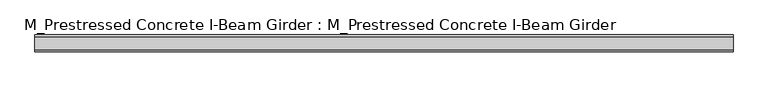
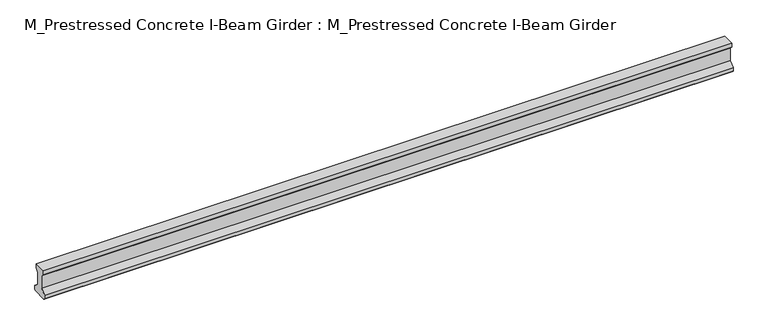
"""IFC4 building model written with IfcOpenShell, lengths in millimetres: beam geometry, M_Prestressed Concrete I-Beam Girder : M_Prestressed Concrete I-Beam Girder."""

from ifc_helpers import new_model, si_unit, frame, origin, place, context, project, spatial, polyline, outline, extrude, source, transform, mapped, element, save


def m_prestressed_concrete_i_beam_girder_m_prestressed_concrete_a927a00e(model_context):
    return source(origin(), model_context, "Body", "SweptSolid", [
        extrude(outline(polyline([(-150.0, -100.0), (-150.0, 0.0), (150.0, 0.0), (150.0, -100.0), (75.0, -170.0), (75.0, -480.0), (200.0, -580.0), (200.0, -675.0), (175.0, -700.0), (-175.0, -700.0), (-200.0, -675.0), (-200.0, -580.0), (-75.0, -480.0), (-75.0, -170.0), (-150.0, -100.0)])), frame((-8202.0000364, 0.0, 0.0), z_axis=(1.0, 0.0, 0.0), x_axis=(0.0, 1.0, 0.0)), (0.0, 0.0, 1.0), 16404.0000728),
    ])


if __name__ == "__main__":
    model = new_model("IFC4")
    model_context = context("Model", 3, world=origin())
    ifc_project = project(units=[si_unit("LENGTHUNIT", "METRE", prefix="MILLI")], contexts=[model_context])
    site = spatial("IfcSite", under=ifc_project)
    building = spatial("IfcBuilding", under=site)
    placement = place(None, origin())
    m_prestressed_concrete_i_beam_girder_m_prestressed_concrete_shape = m_prestressed_concrete_i_beam_girder_m_prestressed_concrete_a927a00e(model_context)
    element("IfcBeam", 1, ObjectType="M_Prestressed Concrete I-Beam Girder : M_Prestressed Concrete I-Beam Girder", at=placement, inside=building, context=model_context, shape_type="MappedRepresentation", body=[
        mapped(m_prestressed_concrete_i_beam_girder_m_prestressed_concrete_shape, transform((0.0, 0.0, 0.0), x_axis=(1.0, 0.0, 0.0), y_axis=(0.0, 1.0, 0.0), z_axis=(0.0, 0.0, 1.0))),
    ])
    save(model, "model.ifc")
